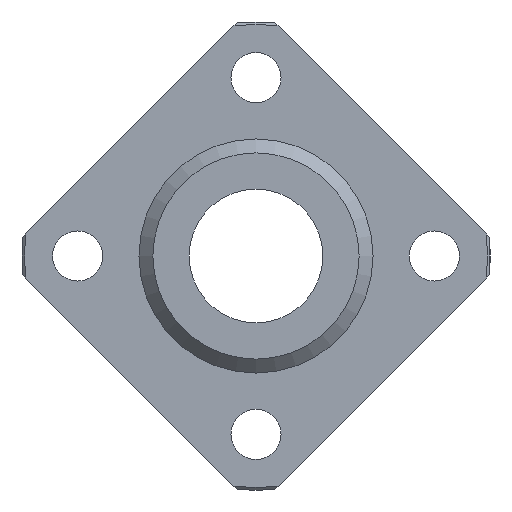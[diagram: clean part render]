
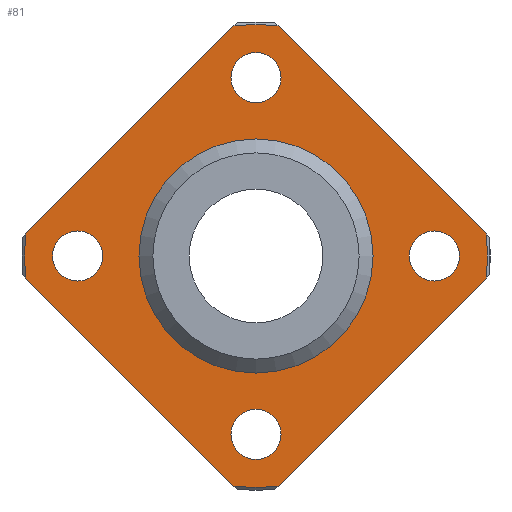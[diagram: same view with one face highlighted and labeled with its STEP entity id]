
A CAD part, left-side view. The second image highlights one B-rep face of the part: STEP entity #81.
In plain terms, the highlighted planar face has unit normal (-1, 0, 0).
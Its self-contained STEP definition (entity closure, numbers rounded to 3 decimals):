
#81=ADVANCED_FACE('',(#125,#126,#127,#128,#129,#130),#131,.F.);
#125=FACE_BOUND('',#219,.T.);
#126=FACE_BOUND('',#220,.T.);
#127=FACE_BOUND('',#221,.T.);
#128=FACE_BOUND('',#222,.T.);
#129=FACE_BOUND('',#223,.T.);
#130=FACE_OUTER_BOUND('',#224,.T.);
#131=PLANE('',#225);
#219=EDGE_LOOP('',(#342));
#220=EDGE_LOOP('',(#343));
#221=EDGE_LOOP('',(#344));
#222=EDGE_LOOP('',(#345));
#223=EDGE_LOOP('',(#346));
#224=EDGE_LOOP('',(#347,#348,#349,#350,#351,#352,#353,#354));
#225=AXIS2_PLACEMENT_3D('',#355,#356,#357);
#342=ORIENTED_EDGE('',*,*,#562,.T.);
#343=ORIENTED_EDGE('',*,*,#563,.T.);
#344=ORIENTED_EDGE('',*,*,#564,.T.);
#345=ORIENTED_EDGE('',*,*,#565,.T.);
#346=ORIENTED_EDGE('',*,*,#559,.T.);
#347=ORIENTED_EDGE('',*,*,#566,.F.);
#348=ORIENTED_EDGE('',*,*,#567,.T.);
#349=ORIENTED_EDGE('',*,*,#542,.F.);
#350=ORIENTED_EDGE('',*,*,#568,.T.);
#351=ORIENTED_EDGE('',*,*,#569,.F.);
#352=ORIENTED_EDGE('',*,*,#570,.T.);
#353=ORIENTED_EDGE('',*,*,#553,.F.);
#354=ORIENTED_EDGE('',*,*,#571,.T.);
#355=CARTESIAN_POINT('',(-9.0,20.746,0.0));
#356=DIRECTION('',(1.0,0.0,0.0));
#357=DIRECTION('',(0.0,0.0,-1.0));
#542=EDGE_CURVE('',#614,#616,#617,.T.);
#553=EDGE_CURVE('',#635,#637,#638,.T.);
#559=EDGE_CURVE('',#648,#648,#649,.T.);
#562=EDGE_CURVE('',#654,#654,#655,.T.);
#563=EDGE_CURVE('',#656,#656,#657,.T.);
#564=EDGE_CURVE('',#658,#658,#659,.T.);
#565=EDGE_CURVE('',#660,#660,#661,.T.);
#566=EDGE_CURVE('',#662,#663,#664,.T.);
#567=EDGE_CURVE('',#662,#616,#665,.T.);
#568=EDGE_CURVE('',#614,#666,#667,.T.);
#569=EDGE_CURVE('',#668,#666,#669,.T.);
#570=EDGE_CURVE('',#668,#637,#670,.T.);
#571=EDGE_CURVE('',#635,#663,#671,.T.);
#614=VERTEX_POINT('',#741);
#616=VERTEX_POINT('',#746);
#617=LINE('',#747,#748);
#635=VERTEX_POINT('',#781);
#637=VERTEX_POINT('',#786);
#638=LINE('',#787,#788);
#648=VERTEX_POINT('',#805);
#649=CIRCLE('',#806,10.5);
#654=VERTEX_POINT('',#811);
#655=CIRCLE('',#812,2.25);
#656=VERTEX_POINT('',#813);
#657=CIRCLE('',#814,2.25);
#658=VERTEX_POINT('',#815);
#659=CIRCLE('',#816,2.25);
#660=VERTEX_POINT('',#817);
#661=CIRCLE('',#818,2.25);
#662=VERTEX_POINT('',#819);
#663=VERTEX_POINT('',#820);
#664=LINE('',#821,#822);
#665=CIRCLE('',#823,20.746);
#666=VERTEX_POINT('',#824);
#667=CIRCLE('',#825,20.746);
#668=VERTEX_POINT('',#826);
#669=LINE('',#827,#828);
#670=CIRCLE('',#829,20.746);
#671=CIRCLE('',#830,20.746);
#741=CARTESIAN_POINT('',(-9.0,-1.976,20.652));
#746=CARTESIAN_POINT('',(-9.0,-20.652,1.976));
#747=CARTESIAN_POINT('',(-9.0,-0.941,21.687));
#748=VECTOR('',#917,1.0);
#781=CARTESIAN_POINT('',(-9.0,1.976,-20.652));
#786=CARTESIAN_POINT('',(-9.0,20.652,-1.976));
#787=CARTESIAN_POINT('',(-9.0,21.687,-0.941));
#788=VECTOR('',#927,1.0);
#805=CARTESIAN_POINT('',(-9.0,0.,-10.5));
#806=AXIS2_PLACEMENT_3D('',#935,#936,#937);
#811=CARTESIAN_POINT('',(-9.0,0.0,13.75));
#812=AXIS2_PLACEMENT_3D('',#944,#945,#946);
#813=CARTESIAN_POINT('',(-9.0,16.0,-2.25));
#814=AXIS2_PLACEMENT_3D('',#947,#948,#949);
#815=CARTESIAN_POINT('',(-9.0,0.0,-18.25));
#816=AXIS2_PLACEMENT_3D('',#950,#951,#952);
#817=CARTESIAN_POINT('',(-9.0,-16.0,-2.25));
#818=AXIS2_PLACEMENT_3D('',#953,#954,#955);
#819=CARTESIAN_POINT('',(-9.0,-20.652,-1.976));
#820=CARTESIAN_POINT('',(-9.0,-1.976,-20.652));
#821=CARTESIAN_POINT('',(-9.0,-0.941,-21.687));
#822=VECTOR('',#956,1.0);
#823=AXIS2_PLACEMENT_3D('',#957,#958,#959);
#824=CARTESIAN_POINT('',(-9.0,1.976,20.652));
#825=AXIS2_PLACEMENT_3D('',#960,#961,#962);
#826=CARTESIAN_POINT('',(-9.0,20.652,1.976));
#827=CARTESIAN_POINT('',(-9.0,21.687,0.941));
#828=VECTOR('',#963,1.0);
#829=AXIS2_PLACEMENT_3D('',#964,#965,#966);
#830=AXIS2_PLACEMENT_3D('',#967,#968,#969);
#917=DIRECTION('',(0.0,-0.707,-0.707));
#927=DIRECTION('',(0.0,0.707,0.707));
#935=CARTESIAN_POINT('',(-9.0,0.,0.));
#936=DIRECTION('',(1.0,0.0,0.0));
#937=DIRECTION('',(0.0,0.0,-1.0));
#944=CARTESIAN_POINT('',(-9.0,0.0,16.0));
#945=DIRECTION('',(1.0,0.0,0.0));
#946=DIRECTION('',(0.0,0.0,-1.0));
#947=CARTESIAN_POINT('',(-9.0,16.0,0.0));
#948=DIRECTION('',(1.0,0.0,0.0));
#949=DIRECTION('',(0.0,0.0,-1.0));
#950=CARTESIAN_POINT('',(-9.0,0.0,-16.0));
#951=DIRECTION('',(1.0,0.0,0.0));
#952=DIRECTION('',(0.0,0.0,-1.0));
#953=CARTESIAN_POINT('',(-9.0,-16.0,0.0));
#954=DIRECTION('',(1.0,0.0,0.0));
#955=DIRECTION('',(0.0,0.0,-1.0));
#956=DIRECTION('',(0.0,0.707,-0.707));
#957=CARTESIAN_POINT('',(-9.0,0.0,0.0));
#958=DIRECTION('',(-1.0,0.0,0.0));
#959=DIRECTION('',(0.0,0.0,1.0));
#960=CARTESIAN_POINT('',(-9.0,0.0,0.0));
#961=DIRECTION('',(-1.0,0.0,0.0));
#962=DIRECTION('',(0.0,0.0,1.0));
#963=DIRECTION('',(0.0,-0.707,0.707));
#964=CARTESIAN_POINT('',(-9.0,0.0,0.0));
#965=DIRECTION('',(-1.0,0.0,0.0));
#966=DIRECTION('',(0.0,0.0,1.0));
#967=CARTESIAN_POINT('',(-9.0,0.0,0.0));
#968=DIRECTION('',(-1.0,0.0,0.0));
#969=DIRECTION('',(0.0,0.0,1.0));
